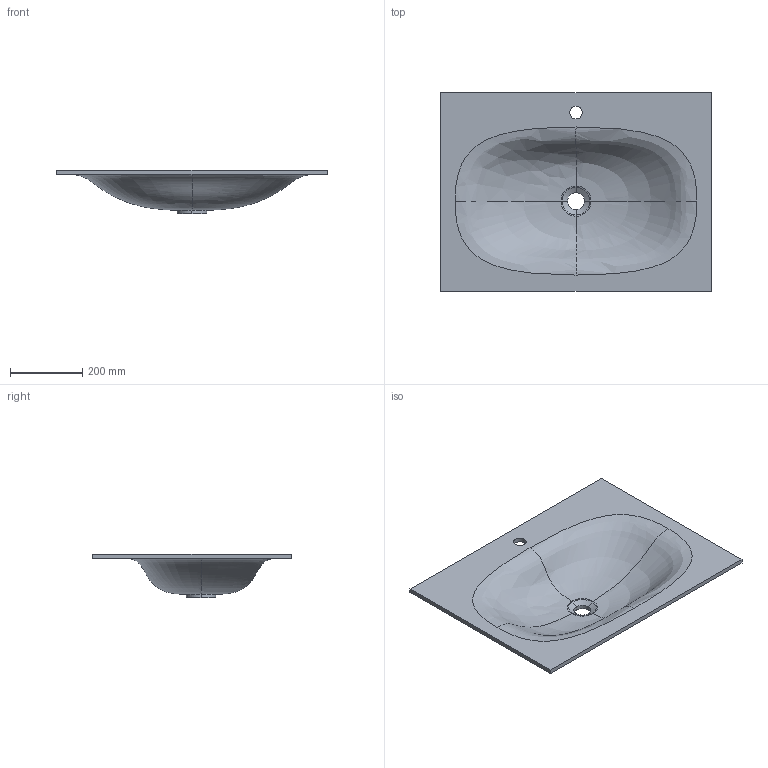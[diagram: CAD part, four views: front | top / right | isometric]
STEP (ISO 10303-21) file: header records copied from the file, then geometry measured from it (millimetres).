
FILE_DESCRIPTION (( 'STEP AP214' ), '1' );
FILE_NAME ('TRINITY 750.STEP', '2024-05-10T08:26:51', ( '' ), ( '' ), 'SwSTEP 2.0', 'SolidWorks 2021', '' );
FILE_SCHEMA (( 'AUTOMOTIVE_DESIGN' ));
Length unit declared in the file: millimetre
Products named in the file (1): TRINITY 750
Bounding box: 750 x 550 x 121.39 mm (x, y, z)
Volume: 5401941.5 mm3; surface area: 934407.6 mm2
Topology: 1 solids, 1 shells, 39 faces, 84 edges, 47 vertices
Faces by surface type: bspline 32, plane 6, cylinder 1
Full cylindrical faces by diameter (mm): 35 x1
Entity records: 19763 total; most frequent: CARTESIAN_POINT 19103, ORIENTED_EDGE 164, EDGE_CURVE 82, DIRECTION 54, VERTEX_POINT 46, B_SPLINE_CURVE_WITH_KNOTS 46, EDGE_LOOP 44, FACE_OUTER_BOUND 40
